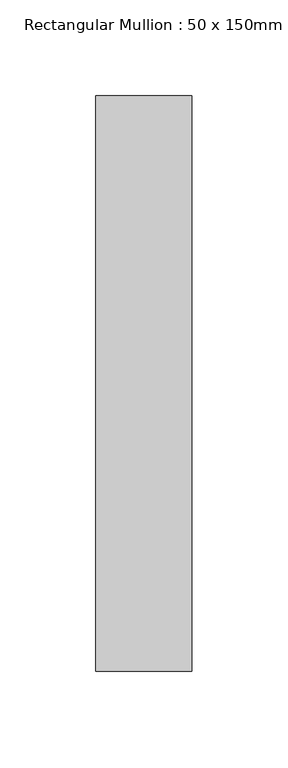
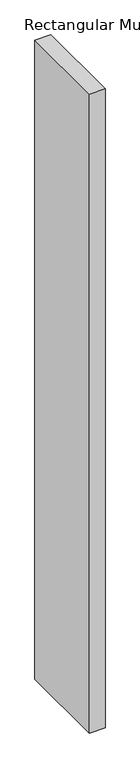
"""IFC4 building model written with IfcOpenShell, lengths in millimetres: member geometry, Rectangular Mullion : 50 x 150mm."""

from ifc_helpers import new_model, si_unit, frame, origin, place, context, project, spatial, polyline, outline, extrude, source, transform, mapped, element, save


def rectangular_mullion_50_x_150mm_c4449b0d(model_context):
    return source(origin(), model_context, "Body", "SweptSolid", [
        extrude(outline(polyline([(0.0, 125.0), (0.0, -175.0), (-50.0, -175.0), (-50.0, 125.0), (0.0, 125.0)])), frame((0.0, 0.0, -2150.0), z_axis=(0.0, 0.0, 1.0), x_axis=(1.0, 0.0, 0.0)), (0.0, 0.0, 1.0), 2150.0),
    ])


if __name__ == "__main__":
    model = new_model("IFC4")
    model_context = context("Model", 3, world=origin())
    ifc_project = project(units=[si_unit("LENGTHUNIT", "METRE", prefix="MILLI")], contexts=[model_context])
    site = spatial("IfcSite", under=ifc_project)
    building = spatial("IfcBuilding", under=site)
    placement = place(None, origin())
    rectangular_mullion_50_x_150mm_shape = rectangular_mullion_50_x_150mm_c4449b0d(model_context)
    element("IfcMember", 1, ObjectType="Rectangular Mullion : 50 x 150mm", at=placement, inside=building, context=model_context, shape_type="MappedRepresentation", body=[
        mapped(rectangular_mullion_50_x_150mm_shape, transform((0.0, 0.0, 0.0), x_axis=(1.0, 0.0, 0.0), y_axis=(0.0, 1.0, 0.0), z_axis=(0.0, 0.0, 1.0))),
    ])
    save(model, "model.ifc")
